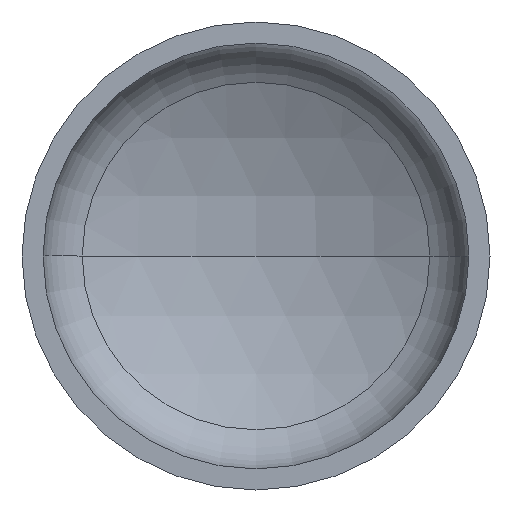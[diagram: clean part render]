
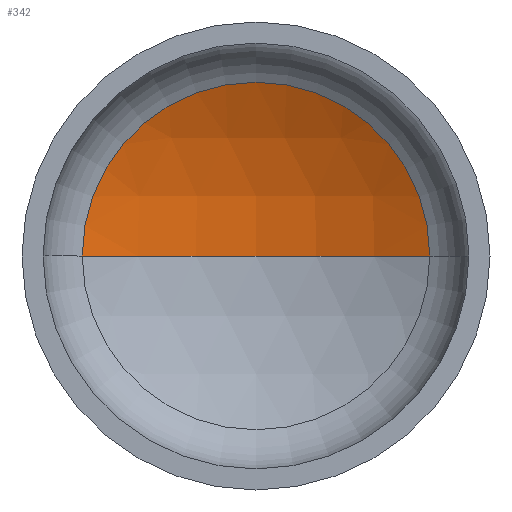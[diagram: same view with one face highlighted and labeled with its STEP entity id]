
A CAD part, front view. The second image highlights one B-rep face of the part: STEP entity #342.
In plain terms, the highlighted spherical face has radius 640 mm.
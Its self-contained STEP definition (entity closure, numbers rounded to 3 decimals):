
#4 = AXIS2_PLACEMENT_3D ( 'NONE', #16, #146, #5 ) ;
#5 = DIRECTION ( 'NONE',  ( 1., 0., 0. ) ) ;
#11 = AXIS2_PLACEMENT_3D ( 'NONE', #96, #115, #75 ) ;
#13 = DIRECTION ( 'NONE',  ( 0., 0., 1. ) ) ;
#15 = AXIS2_PLACEMENT_3D ( 'NONE', #130, #13, #254 ) ;
#16 = CARTESIAN_POINT ( 'NONE',  ( 0., 220.724, 0. ) ) ;
#17 = AXIS2_PLACEMENT_3D ( 'NONE', #97, #118, #114 ) ;
#54 = CARTESIAN_POINT ( 'NONE',  ( 0., 293.816, 0. ) ) ;
#72 = CIRCLE ( 'NONE', #15, 640. ) ;
#75 = DIRECTION ( 'NONE',  ( -1., 0., 0. ) ) ;
#96 = CARTESIAN_POINT ( 'NONE',  ( 0., -346.184, 0. ) ) ;
#97 = CARTESIAN_POINT ( 'NONE',  ( 0., -346.184, 0. ) ) ;
#114 = DIRECTION ( 'NONE',  ( -1., 0., 0. ) ) ;
#115 = DIRECTION ( 'NONE',  ( 0., 0., -1. ) ) ;
#118 = DIRECTION ( 'NONE',  ( 0., 0., -1. ) ) ;
#124 = CARTESIAN_POINT ( 'NONE',  ( 297.01, 220.724, 0. ) ) ;
#130 = CARTESIAN_POINT ( 'NONE',  ( 0., -346.184, 0. ) ) ;
#146 = DIRECTION ( 'NONE',  ( 0., -1., 0. ) ) ;
#148 = CIRCLE ( 'NONE', #4, 297.01 ) ;
#198 = ORIENTED_EDGE ( 'NONE', *, *, #339, .F. ) ;
#231 = CIRCLE ( 'NONE', #17, 640. ) ;
#236 = CARTESIAN_POINT ( 'NONE',  ( -297.01, 220.724, 0. ) ) ;
#242 = EDGE_LOOP ( 'NONE', ( #198, #260, #373 ) ) ;
#254 = DIRECTION ( 'NONE',  ( 1., 0., 0. ) ) ;
#260 = ORIENTED_EDGE ( 'NONE', *, *, #329, .T. ) ;
#297 = FACE_OUTER_BOUND ( 'NONE', #242, .T. ) ;
#304 = SPHERICAL_SURFACE ( 'NONE', #11, 640. ) ;
#305 = VERTEX_POINT ( 'NONE', #236 ) ;
#329 = EDGE_CURVE ( 'NONE', #349, #343, #231, .T. ) ;
#339 = EDGE_CURVE ( 'NONE', #349, #305, #72, .T. ) ;
#342 = ADVANCED_FACE ( 'NONE', ( #297 ), #304, .F. ) ;
#343 = VERTEX_POINT ( 'NONE', #124 ) ;
#349 = VERTEX_POINT ( 'NONE', #54 ) ;
#352 = EDGE_CURVE ( 'NONE', #343, #305, #148, .T. ) ;
#373 = ORIENTED_EDGE ( 'NONE', *, *, #352, .T. ) ;
